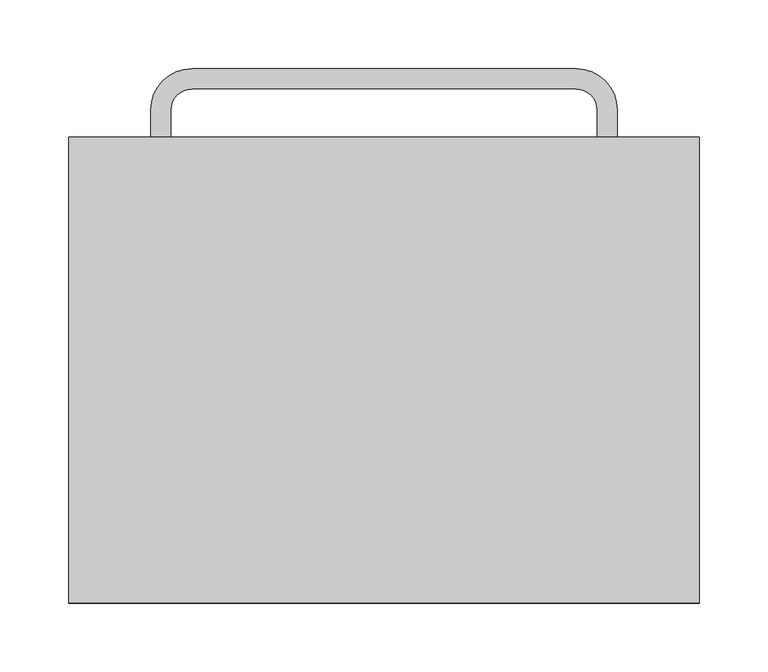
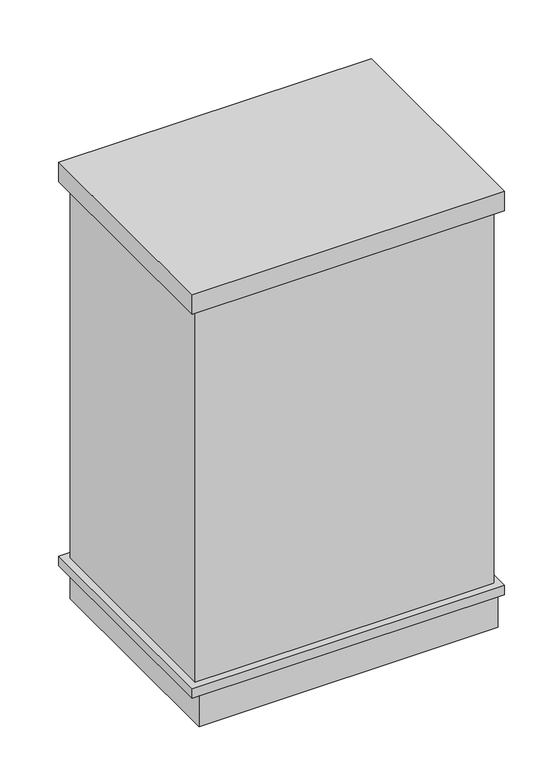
"""IFC4 building model written with IfcOpenShell, lengths in millimetres: furniture geometry, BIMHealth-Bin_Clinical_Foot_Operated-LOD2A-v1 : BIMHealth-Bin_Clinical_Foot_Operated-LOD2A-v1."""

from ifc_helpers import new_model, si_unit, point, frame, frame_2d, origin, origin_with_axes, place, context, project, spatial, polyline, circle_curve, trimmed, segment, composite_curve, outline, extrude, source, transform, mapped, element, save


def furniture_af9008cf(model_context):
    return source(origin(), model_context, "Body", "SweptSolid", [
        extrude(outline(polyline([(564.016543, 151.0723135), (564.016543, 158.5290442), (564.3554853, 161.6852942), (565.3554853, 163.8271212), (567.2401007, 165.2622173), (569.8867353, 165.8415442), (572.9492353, 164.9929865), (574.7857738, 162.5675058), (576.5285622, 164.5651019), (578.829043, 165.2261596), (581.3482738, 164.4401019), (583.1295238, 162.267025), (583.7088507, 158.5867365), (583.7088507, 151.0723135), (564.016543, 151.0723135)]), holes=[polyline([(575.7088507, 153.5338519), (581.2473122, 153.5338519), (581.2473122, 157.6876981), (580.9901007, 160.8511596), (580.0405815, 162.2694288), (578.4348122, 162.7646212), (576.8314468, 162.2333712), (575.9203892, 160.6540442), (575.7088507, 158.0290442), (575.7088507, 153.5338519)]), polyline([(566.4780815, 153.5338519), (573.2473122, 153.5338519), (573.2473122, 158.3415442), (572.9179853, 161.3824096), (571.7761584, 162.9088519), (569.8626968, 163.3800058), (567.110293, 161.954525), (566.5742353, 160.4088519), (566.4780815, 158.5819288), (566.4780815, 153.5338519)])]), frame((0.0, 317.779018, 0.0), z_axis=(0.0, 1.0, 0.0), x_axis=(0.0, 0.0, 1.0)), (0.0, 0.0, 1.0), 2.0),
        extrude(outline(polyline([(171.9953904, 319.779018), (171.9953904, 317.779018), (169.5338519, 317.779018), (169.5338519, 319.779018), (171.9953904, 319.779018)])), frame((0.0, 0.0, 564.016543), z_axis=(0.0, 0.0, 1.0), x_axis=(1.0, 0.0, 0.0)), (0.0, 0.0, 1.0), 19.6923077),
        extrude(outline(polyline([(564.016543, 176.9184673), (564.016543, 179.3800058), (581.2473122, 179.3800058), (564.016543, 184.3319288), (564.016543, 187.6636596), (581.2473122, 192.610775), (564.016543, 192.610775), (564.016543, 195.0723135), (583.7088507, 195.0723135), (583.7088507, 190.8367365), (570.0694276, 186.8751981), (566.9300045, 185.9953904), (569.829043, 185.1780827), (583.7088507, 181.1396212), (583.7088507, 176.9184673), (564.016543, 176.9184673)])), frame((0.0, 317.779018, 0.0), z_axis=(0.0, 1.0, 0.0), x_axis=(0.0, 0.0, 1.0)), (0.0, 0.0, 1.0), 2.0),
        extrude(outline(polyline([(564.016543, 199.3800058), (564.016543, 201.8415442), (573.2473122, 201.8415442), (573.2473122, 212.3030827), (564.016543, 212.3030827), (564.016543, 214.7646212), (583.7088507, 214.7646212), (583.7088507, 212.3030827), (575.7088507, 212.3030827), (575.7088507, 201.8415442), (583.7088507, 201.8415442), (583.7088507, 199.3800058), (564.016543, 199.3800058)])), frame((0.0, 317.779018, 0.0), z_axis=(0.0, 1.0, 0.0), x_axis=(0.0, 0.0, 1.0)), (0.0, 0.0, 1.0), 2.0),
        extrude(outline(polyline([(568.3242353, 228.8896212), (566.6848122, 227.3030827), (566.1703892, 224.8896212), (567.2809661, 221.7189481), (570.4780815, 220.3030827), (571.141543, 231.3800058), (576.7809661, 229.5122173), (578.7857738, 224.7021212), (576.7761584, 219.7501981), (571.1271199, 217.8415442), (565.6583699, 219.7309673), (563.7088507, 224.8415442), (564.8386584, 229.0458712), (568.016543, 231.3030827), (568.3242353, 228.8896212)]), holes=[polyline([(572.9396199, 220.3030827), (575.4035622, 221.6612558), (576.3242353, 224.6925058), (575.1703892, 227.9328904), (572.9396199, 228.9184673), (572.9396199, 220.3030827)])]), frame((0.0, 317.779018, 0.0), z_axis=(0.0, 1.0, 0.0), x_axis=(0.0, 0.0, 1.0)), (0.0, 0.0, 1.0), 2.0),
        extrude(outline(polyline([(565.8626968, 243.0723135), (564.016543, 243.6876981), (564.016543, 246.1492365), (566.0862545, 245.6588519), (570.3626968, 245.5338519), (573.4251968, 245.5338519), (575.579043, 245.4136596), (577.2497161, 244.6588519), (578.3482738, 242.9737558), (578.7857738, 239.9905827), (578.2905815, 236.7429865), (576.8819276, 234.5987558), (574.4780815, 233.5338519), (574.1703892, 235.9953904), (575.8506776, 237.1828904), (576.3242353, 239.673275), (575.6126968, 242.3944288), (573.2473122, 243.0578904), (572.4011584, 238.7886596), (572.0309661, 236.6588519), (571.2232738, 234.9352942), (569.8098122, 233.6973135), (567.8626968, 233.2261596), (564.8771199, 234.4737558), (563.7088507, 238.048275), (564.1944276, 240.6852942), (565.8626968, 243.0723135)]), holes=[polyline([(570.4372161, 243.0651019), (568.1848122, 242.6684673), (566.7593315, 241.0626981), (566.1703892, 238.5723135), (569.6319276, 236.9833712), (570.0309661, 239.1011596), (570.4372161, 243.0651019)])]), frame((0.0, 317.779018, 0.0), z_axis=(0.0, 1.0, 0.0), x_axis=(0.0, 0.0, 1.0)), (0.0, 0.0, 1.0), 2.0),
        extrude(outline(polyline([(251.3800058, 319.779018), (251.3800058, 317.779018), (248.9184673, 317.779018), (248.9184673, 319.779018), (251.3800058, 319.779018)])), frame((0.0, 0.0, 564.016543), z_axis=(0.0, 0.0, 1.0), x_axis=(1.0, 0.0, 0.0)), (0.0, 0.0, 1.0), 19.6923077),
        extrude(outline(polyline([(567.0622161, 259.0723135), (576.016543, 257.8415442), (576.016543, 260.3030827), (578.4780815, 260.3030827), (578.4780815, 257.8415442), (583.4396199, 257.8415442), (581.9925045, 255.3800058), (578.4780815, 255.3800058), (578.4780815, 253.5338519), (576.016543, 253.5338519), (576.016543, 255.3800058), (567.9828892, 255.3800058), (564.1175045, 256.7069288), (563.7088507, 258.7694288), (563.9444276, 260.610775), (567.0622161, 259.0723135)])), frame((0.0, 317.779018, 0.0), z_axis=(0.0, 1.0, 0.0), x_axis=(0.0, 0.0, 1.0)), (0.0, 0.0, 1.0), 2.0),
        extrude(outline(polyline([(564.016543, 262.7646212), (564.016543, 265.2261596), (571.6992353, 265.2261596), (574.2905815, 265.6276019), (575.7761584, 266.9737558), (576.3242353, 268.9905827), (575.5117353, 271.2117365), (572.9155815, 271.9953904), (564.016543, 271.9953904), (564.016543, 274.4569288), (573.1703892, 274.4569288), (576.4059661, 273.9521212), (578.1535622, 272.2742365), (578.7857738, 269.5098135), (576.4684661, 265.2261596), (583.7088507, 265.2261596), (583.7088507, 262.7646212), (564.016543, 262.7646212)])), frame((0.0, 317.779018, 0.0), z_axis=(0.0, 1.0, 0.0), x_axis=(0.0, 0.0, 1.0)), (0.0, 0.0, 1.0), 2.0),
        extrude(outline(polyline([(450.0, 330.0), (450.0, -10.0), (-10.0, -10.0), (-10.0, 330.0), (450.0, 330.0)])), frame((0.0, 0.0, 47.5), z_axis=(0.0, 0.0, 1.0), x_axis=(1.0, 0.0, 0.0)), (0.0, 0.0, 1.0), 15.0),
        extrude(outline(polyline([(450.0, 330.0), (450.0, -10.0), (-10.0, -10.0), (-10.0, 330.0), (450.0, 330.0)])), frame((0.0, 0.0, 645.0), z_axis=(0.0, 0.0, 1.0), x_axis=(1.0, 0.0, 0.0)), (0.0, 0.0, 1.0), 30.0),
        extrude(outline(polyline([(440.0, 317.779018), (440.0, 0.0), (0.0, 0.0), (0.0, 317.779018), (440.0, 317.779018)])), frame((0.0, 0.0, 62.5), z_axis=(0.0, 0.0, 1.0), x_axis=(1.0, 0.0, 0.0)), (0.0, 0.0, 1.0), 582.5),
        extrude(outline(polyline([(410.0, 20.0), (410.0, 317.779018), (440.0, 317.779018), (440.0, -10.0), (0.0, -10.0), (0.0, 317.779018), (30.0, 317.779018), (30.0, 20.0), (410.0, 20.0)])), origin_with_axes(), (0.0, 0.0, 1.0), 47.5),
        extrude(outline(composite_curve([segment(trimmed(circle_curve(frame_2d((360.0, 350.0)), 30.0), [point((360.0, 380.0))], [point((390.0, 350.0))], False, "CARTESIAN"), True, "CONTINUOUS"), segment(polyline([(390.0, 350.0), (390.0, 132.779018), (50.0, 132.779018), (50.0, 350.0)]), True, "CONTINUOUS"), segment(trimmed(circle_curve(frame_2d((80.0, 350.0)), 30.0), [point((50.0, 350.0))], [point((80.0, 380.0))], False, "CARTESIAN"), True, "CONTINUOUS"), segment(polyline([(80.0, 380.0), (360.0, 380.0)]), True, "CONTINUOUS")], self_intersect=False), holes=[composite_curve([segment(polyline([(65.0, 350.0), (65.0, 147.779018), (375.0, 147.779018), (375.0, 350.0)]), True, "CONTINUOUS"), segment(trimmed(circle_curve(frame_2d((360.0, 350.0)), 15.0), [point((375.0, 350.0))], [point((360.0, 365.0))], True, "CARTESIAN"), True, "CONTINUOUS"), segment(polyline([(360.0, 365.0), (80.0, 365.0)]), True, "CONTINUOUS"), segment(trimmed(circle_curve(frame_2d((80.0, 350.0)), 15.0), [point((80.0, 365.0))], [point((65.0, 350.0))], True, "CARTESIAN"), True, "CONTINUOUS")], self_intersect=False)]), frame((0.0, 0.0, 27.5), z_axis=(0.0, 0.0, 1.0), x_axis=(1.0, 0.0, 0.0)), (0.0, 0.0, 1.0), 15.0),
    ])


if __name__ == "__main__":
    model = new_model("IFC4")
    model_context = context("Model", 3, world=origin())
    ifc_project = project(units=[si_unit("LENGTHUNIT", "METRE", prefix="MILLI")], contexts=[model_context])
    site = spatial("IfcSite", under=ifc_project)
    building = spatial("IfcBuilding", under=site)
    placement = place(None, origin())
    furniture_shape = furniture_af9008cf(model_context)
    element("IfcFurniture", 1, ObjectType="BIMHealth-Bin_Clinical_Foot_Operated-LOD2A-v1 : BIMHealth-Bin_Clinical_Foot_Operated-LOD2A-v1", at=placement, inside=building, context=model_context, shape_type="MappedRepresentation", body=[
        mapped(furniture_shape, transform((0.0, 0.0, 0.0), x_axis=(1.0, 0.0, 0.0), y_axis=(0.0, 1.0, 0.0), z_axis=(0.0, 0.0, 1.0))),
    ])
    save(model, "model.ifc")
